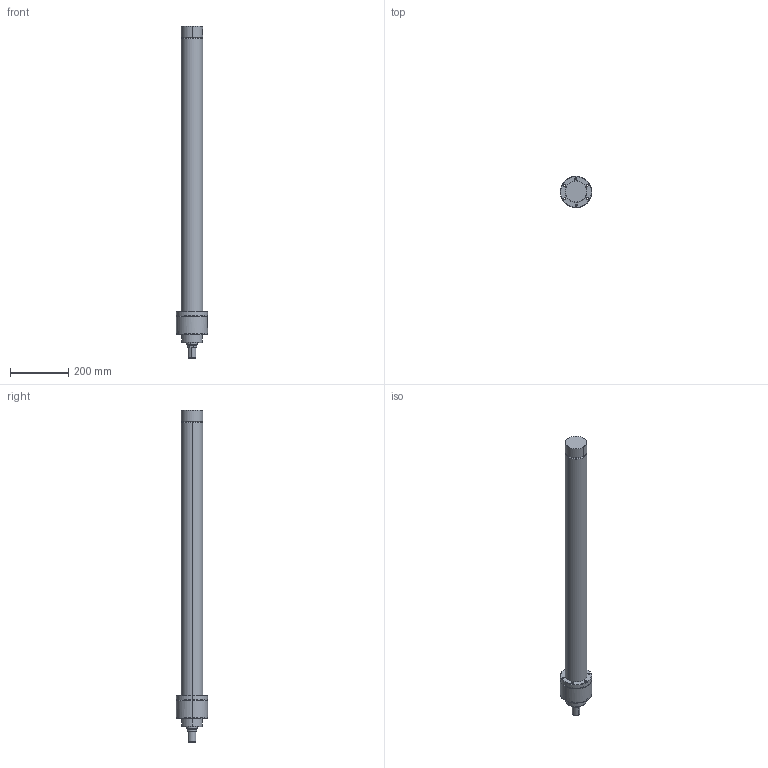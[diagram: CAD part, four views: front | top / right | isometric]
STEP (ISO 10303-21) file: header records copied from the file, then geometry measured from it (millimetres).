
FILE_DESCRIPTION (( 'STEP AP214' ), '1' );
FILE_NAME ('63-35-900-WEB.STEP', '2021-01-13T12:26:31', ( 'cagdas' ), ( '' ), 'SwSTEP 2.0', 'SolidWorks 2021', '' );
FILE_SCHEMA (( 'AUTOMOTIVE_DESIGN' ));
Length unit declared in the file: millimetre
Products named in the file (6): 63x75_BORU_WEB; TYAK_63_75; 63_Gerdirme _Flansý; 63-35-900-WEB; 35_K_MIL_WEB; 63_36_CETOP_烰_KAPAK
Assembly tree (5 placements, depth 2):
  63-35-900-WEB
    63x75_BORU_WEB
    TYAK_63_75
    63_36_CETOP_烰_KAPAK
    63_Gerdirme _Flansý
    35_K_MIL_WEB
Bounding box: 107.99 x 107.99 x 1144 mm (x, y, z)
Volume: 2254230.4 mm3; surface area: 559305.6 mm2
Topology: 5 solids, 5 shells, 377 faces, 925 edges, 590 vertices
Faces by surface type: plane 120, cylinder 102, bspline 87, cone 64, torus 4
Entity records: 17240 total; most frequent: CARTESIAN_POINT 8406, ORIENTED_EDGE 1850, DIRECTION 1528, EDGE_CURVE 925, VERTEX_POINT 590, AXIS2_PLACEMENT_3D 575, EDGE_LOOP 443, VECTOR 378
